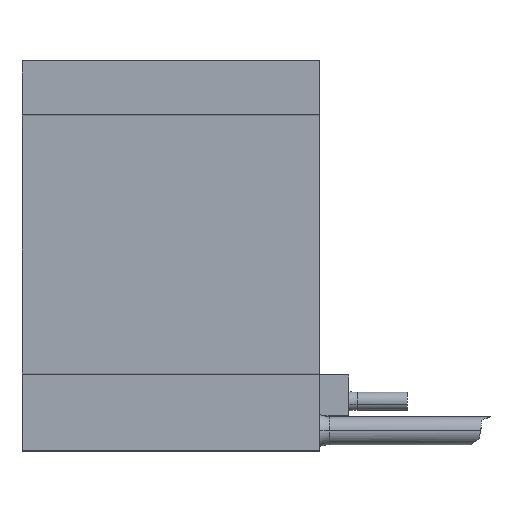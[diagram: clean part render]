
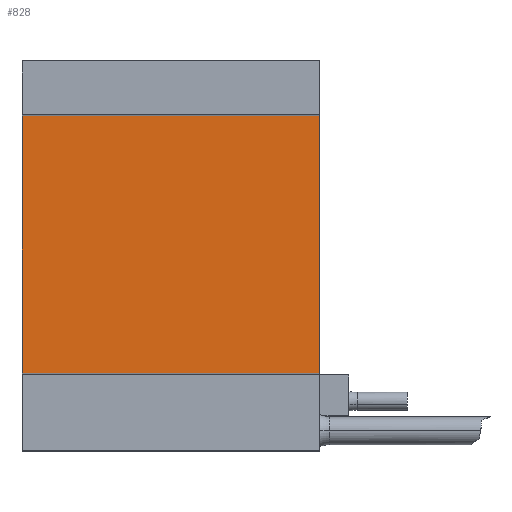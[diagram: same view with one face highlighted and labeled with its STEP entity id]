
A CAD part, top view. The second image highlights one B-rep face of the part: STEP entity #828.
In plain terms, the highlighted planar face has unit normal (0, 0, 1).
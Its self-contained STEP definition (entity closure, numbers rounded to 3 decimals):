
#47 = LINE ( 'NONE', #4055, #3613 ) ;
#314 = EDGE_CURVE ( 'NONE', #3215, #6653, #3194, .T. ) ;
#451 = CARTESIAN_POINT ( 'NONE',  ( -84.097, 66.803, 43.079 ) ) ;
#540 = CARTESIAN_POINT ( 'NONE',  ( -84.097, 66.803, 43.079 ) ) ;
#567 = DIRECTION ( 'NONE',  ( 0., -1., 0. ) ) ;
#605 = ORIENTED_EDGE ( 'NONE', *, *, #2373, .T. ) ;
#815 = VECTOR ( 'NONE', #1682, 1000. ) ;
#828 = ADVANCED_FACE ( 'NONE', ( #3109 ), #6867, .F. ) ;
#942 = DIRECTION ( 'NONE',  ( 0., 1., 0. ) ) ;
#1385 = VECTOR ( 'NONE', #3560, 1000. ) ;
#1682 = DIRECTION ( 'NONE',  ( 1., 0., 0. ) ) ;
#2056 = VERTEX_POINT ( 'NONE', #6643 ) ;
#2188 = EDGE_LOOP ( 'NONE', ( #5033, #4735, #5529, #605 ) ) ;
#2373 = EDGE_CURVE ( 'NONE', #6653, #2434, #3854, .T. ) ;
#2424 = DIRECTION ( 'NONE',  ( 1., 0., 0. ) ) ;
#2434 = VERTEX_POINT ( 'NONE', #3885 ) ;
#2909 = CARTESIAN_POINT ( 'NONE',  ( -84.097, 119.703, 43.079 ) ) ;
#2938 = CARTESIAN_POINT ( 'NONE',  ( -84.097, 66.803, 43.079 ) ) ;
#3099 = CARTESIAN_POINT ( 'NONE',  ( -23.097, 66.803, 43.079 ) ) ;
#3109 = FACE_OUTER_BOUND ( 'NONE', #2188, .T. ) ;
#3194 = LINE ( 'NONE', #540, #3219 ) ;
#3215 = VERTEX_POINT ( 'NONE', #2909 ) ;
#3219 = VECTOR ( 'NONE', #567, 1000. ) ;
#3473 = AXIS2_PLACEMENT_3D ( 'NONE', #451, #4716, #942 ) ;
#3560 = DIRECTION ( 'NONE',  ( 0., -1., 0. ) ) ;
#3613 = VECTOR ( 'NONE', #2424, 1000. ) ;
#3806 = CARTESIAN_POINT ( 'NONE',  ( -84.097, 66.803, 43.079 ) ) ;
#3854 = LINE ( 'NONE', #3806, #815 ) ;
#3885 = CARTESIAN_POINT ( 'NONE',  ( -23.097, 66.803, 43.079 ) ) ;
#3964 = EDGE_CURVE ( 'NONE', #3215, #2056, #47, .T. ) ;
#4055 = CARTESIAN_POINT ( 'NONE',  ( -84.097, 119.703, 43.079 ) ) ;
#4086 = EDGE_CURVE ( 'NONE', #2056, #2434, #5712, .T. ) ;
#4716 = DIRECTION ( 'NONE',  ( 0., 0., -1. ) ) ;
#4735 = ORIENTED_EDGE ( 'NONE', *, *, #3964, .F. ) ;
#5033 = ORIENTED_EDGE ( 'NONE', *, *, #4086, .F. ) ;
#5529 = ORIENTED_EDGE ( 'NONE', *, *, #314, .T. ) ;
#5712 = LINE ( 'NONE', #3099, #1385 ) ;
#6643 = CARTESIAN_POINT ( 'NONE',  ( -23.097, 119.703, 43.079 ) ) ;
#6653 = VERTEX_POINT ( 'NONE', #2938 ) ;
#6867 = PLANE ( 'NONE',  #3473 ) ;
